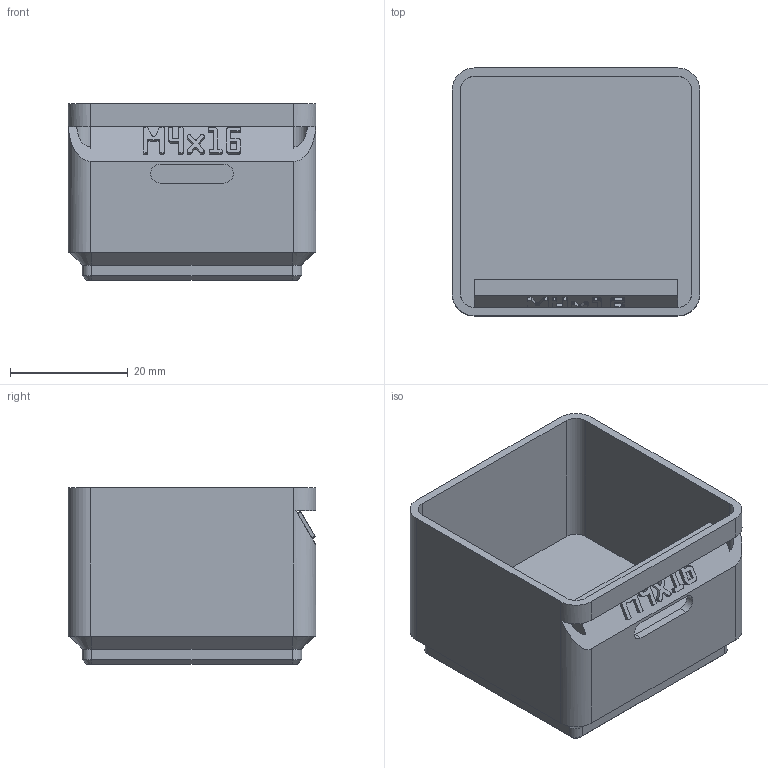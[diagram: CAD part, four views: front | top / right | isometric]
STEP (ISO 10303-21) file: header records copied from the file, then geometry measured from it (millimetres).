
FILE_DESCRIPTION(('Open CASCADE Model'),'2;1');
FILE_NAME('Open CASCADE Shape Model','2026-11-03T17:13:55',('Author'),( 'Open CASCADE'),'Open CASCADE STEP processor 8.0','build123d', 'Unknown');
FILE_SCHEMA(('AUTOMOTIVE_DESIGN { 1 0 10303 214 1 1 1 1 }'));
Length unit declared in the file: millimetre
Products named in the file (1): COMPOUND
Bounding box: 42 x 42 x 30 mm (x, y, z)
Volume: 14811.5 mm3; surface area: 12092.3 mm2
Topology: 1 solids, 1 shells, 509 faces, 1485 edges, 984 vertices
Faces by surface type: plane 487, cylinder 14, cone 8
Entity records: 34872 total; most frequent: CARTESIAN_POINT 7027, DIRECTION 4509, LINE 3373, VECTOR 3373, ORIENTED_EDGE 2970, PCURVE 2970, DEFINITIONAL_REPRESENTATION 2970, EDGE_CURVE 1485
